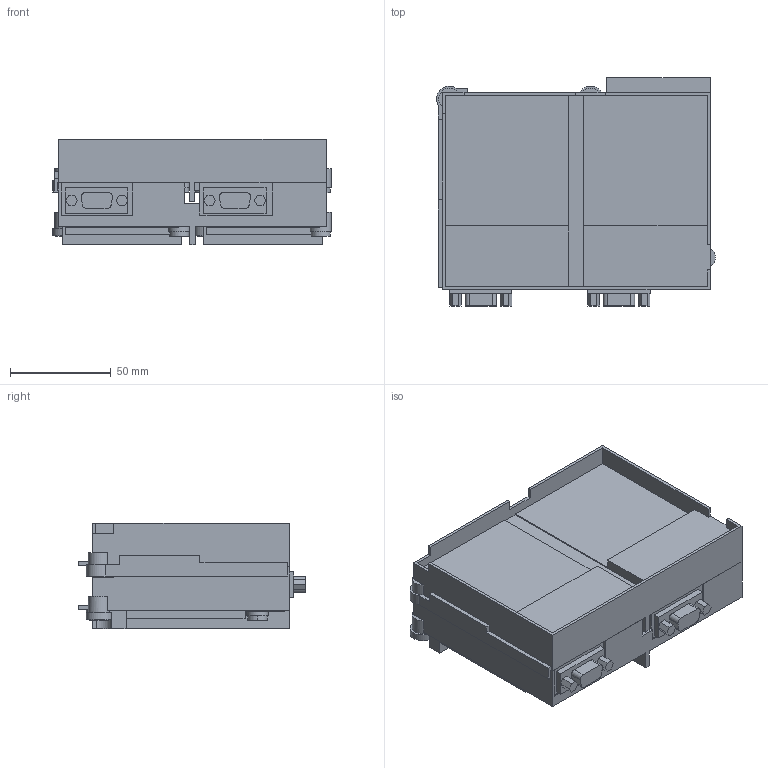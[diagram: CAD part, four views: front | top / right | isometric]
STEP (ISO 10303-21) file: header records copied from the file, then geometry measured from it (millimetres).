
FILE_DESCRIPTION((''),'2;1');
FILE_NAME('GT27-R2-Z_ASM','2013-08-08T',('RC55483'),(''),'PRO/ENGINEER BY PARAMETRIC TECHNOLOGY CORPORATION, 2011490','PRO/ENGINEER BY PARAMETRIC TECHNOLOGY CORPORATION, 2011490','');
FILE_SCHEMA(('CONFIG_CONTROL_DESIGN'));
Length unit declared in the file: millimetre
Products named in the file (3): GT27-IF1000; GT16M-R2; GT27-R2-Z_ASM
Assembly tree (2 placements, depth 2):
  GT27-R2-Z_ASM
    GT27-IF1000
    GT16M-R2
Bounding box: 138.1 x 112.9 x 52.2 mm (x, y, z)
Volume: 456871.7 mm3; surface area: 94045 mm2
Topology: 2 solids, 2 shells, 367 faces, 1011 edges, 672 vertices
Faces by surface type: plane 323, cylinder 44
Entity records: 11609 total; most frequent: CARTESIAN_POINT 2055, ORIENTED_EDGE 2022, DIRECTION 1859, EDGE_CURVE 1011, VECTOR 907, LINE 907, VERTEX_POINT 672, AXIS2_PLACEMENT_3D 476
